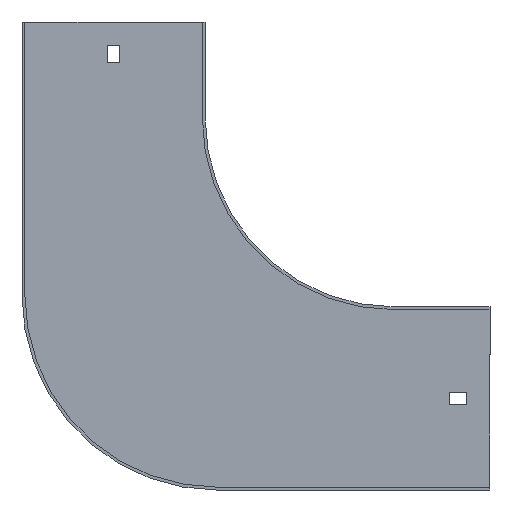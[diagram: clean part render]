
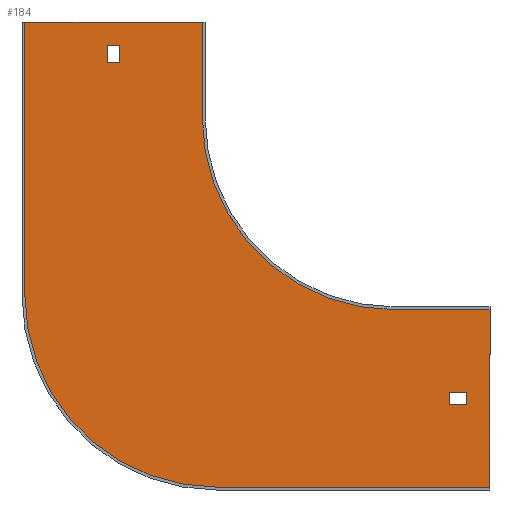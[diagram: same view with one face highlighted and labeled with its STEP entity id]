
A CAD part, front view. The second image highlights one B-rep face of the part: STEP entity #184.
In plain terms, the highlighted planar face has unit normal (0, -1, 0).
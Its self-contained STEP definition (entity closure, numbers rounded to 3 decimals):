
#2 = PLANE ( 'NONE',  #248 ) ;
#5 = ORIENTED_EDGE ( 'NONE', *, *, #211, .F. ) ;
#24 = CARTESIAN_POINT ( 'NONE',  ( 0., -1.5, -100. ) ) ;
#34 = CARTESIAN_POINT ( 'NONE',  ( -149.5, -1.5, 38. ) ) ;
#48 = EDGE_CURVE ( 'NONE', #489, #545, #601, .T. ) ;
#50 = VECTOR ( 'NONE', #131, 1000. ) ;
#54 = CARTESIAN_POINT ( 'NONE',  ( 0., -1.5, 29. ) ) ;
#55 = CARTESIAN_POINT ( 'NONE',  ( 0., -1.5, 0. ) ) ;
#62 = LINE ( 'NONE', #54, #554 ) ;
#63 = EDGE_CURVE ( 'NONE', #143, #469, #261, .T. ) ;
#66 = EDGE_CURVE ( 'NONE', #573, #680, #729, .T. ) ;
#72 = CARTESIAN_POINT ( 'NONE',  ( -100., -1.5, 0. ) ) ;
#73 = DIRECTION ( 'NONE',  ( 0., -1., 0. ) ) ;
#81 = LINE ( 'NONE', #801, #50 ) ;
#91 = VERTEX_POINT ( 'NONE', #391 ) ;
#112 = LINE ( 'NONE', #394, #843 ) ;
#113 = VERTEX_POINT ( 'NONE', #252 ) ;
#119 = DIRECTION ( 'NONE',  ( -1., 0., 0. ) ) ;
#126 = EDGE_CURVE ( 'NONE', #269, #489, #112, .T. ) ;
#131 = DIRECTION ( 'NONE',  ( -1., 0., 0. ) ) ;
#134 = DIRECTION ( 'NONE',  ( 0., 0., -1. ) ) ;
#143 = VERTEX_POINT ( 'NONE', #529 ) ;
#147 = DIRECTION ( 'NONE',  ( 1., 0., 0. ) ) ;
#153 = EDGE_CURVE ( 'NONE', #373, #775, #332, .T. ) ;
#161 = CIRCLE ( 'NONE', #264, 100. ) ;
#165 = EDGE_CURVE ( 'NONE', #606, #271, #161, .T. ) ;
#173 = ORIENTED_EDGE ( 'NONE', *, *, #165, .F. ) ;
#175 = VECTOR ( 'NONE', #670, 1000. ) ;
#184 = ADVANCED_FACE ( 'NONE', ( #419, #274, #608 ), #2, .T. ) ;
#187 = ORIENTED_EDGE ( 'NONE', *, *, #126, .F. ) ;
#202 = CARTESIAN_POINT ( 'NONE',  ( 0., -1.5, 0. ) ) ;
#211 = EDGE_CURVE ( 'NONE', #91, #573, #81, .T. ) ;
#212 = CARTESIAN_POINT ( 'NONE',  ( 0., -1.5, -100. ) ) ;
#236 = VECTOR ( 'NONE', #134, 1000. ) ;
#242 = ORIENTED_EDGE ( 'NONE', *, *, #498, .T. ) ;
#247 = CARTESIAN_POINT ( 'NONE',  ( -149.5, -1.5, 29. ) ) ;
#248 = AXIS2_PLACEMENT_3D ( 'NONE', #202, #73, #405 ) ;
#252 = CARTESIAN_POINT ( 'NONE',  ( 38., -1.5, -149.5 ) ) ;
#255 = CARTESIAN_POINT ( 'NONE',  ( 0., -1.5, 38. ) ) ;
#261 = LINE ( 'NONE', #717, #321 ) ;
#264 = AXIS2_PLACEMENT_3D ( 'NONE', #55, #605, #593 ) ;
#269 = VERTEX_POINT ( 'NONE', #629 ) ;
#271 = VERTEX_POINT ( 'NONE', #24 ) ;
#274 = FACE_OUTER_BOUND ( 'NONE', #665, .T. ) ;
#276 = CARTESIAN_POINT ( 'NONE',  ( 0., -1.5, -149.5 ) ) ;
#302 = LINE ( 'NONE', #565, #376 ) ;
#314 = CARTESIAN_POINT ( 'NONE',  ( 38., -1.5, 0. ) ) ;
#321 = VECTOR ( 'NONE', #524, 1000. ) ;
#322 = LINE ( 'NONE', #520, #735 ) ;
#332 = LINE ( 'NONE', #458, #552 ) ;
#360 = AXIS2_PLACEMENT_3D ( 'NONE', #380, #438, #772 ) ;
#361 = VECTOR ( 'NONE', #147, 1000. ) ;
#373 = VERTEX_POINT ( 'NONE', #496 ) ;
#374 = ORIENTED_EDGE ( 'NONE', *, *, #48, .F. ) ;
#376 = VECTOR ( 'NONE', #847, 1000. ) ;
#378 = LINE ( 'NONE', #314, #859 ) ;
#379 = EDGE_CURVE ( 'NONE', #113, #91, #378, .T. ) ;
#380 = CARTESIAN_POINT ( 'NONE',  ( -92.5, -1.5, -92.5 ) ) ;
#391 = CARTESIAN_POINT ( 'NONE',  ( 38., -1.5, -143. ) ) ;
#392 = ORIENTED_EDGE ( 'NONE', *, *, #153, .T. ) ;
#394 = CARTESIAN_POINT ( 'NONE',  ( 50., -1.5, -192.5 ) ) ;
#402 = ORIENTED_EDGE ( 'NONE', *, *, #66, .F. ) ;
#405 = DIRECTION ( 'NONE',  ( 0., 0., -1. ) ) ;
#413 = CARTESIAN_POINT ( 'NONE',  ( 50., -1.5, -98.5 ) ) ;
#419 = FACE_BOUND ( 'NONE', #711, .T. ) ;
#438 = DIRECTION ( 'NONE',  ( 0., 1., 0. ) ) ;
#449 = DIRECTION ( 'NONE',  ( 1., 0., 0. ) ) ;
#458 = CARTESIAN_POINT ( 'NONE',  ( -143., -1.5, 0. ) ) ;
#462 = LINE ( 'NONE', #725, #175 ) ;
#468 = EDGE_CURVE ( 'NONE', #469, #606, #322, .T. ) ;
#469 = VERTEX_POINT ( 'NONE', #588 ) ;
#480 = ORIENTED_EDGE ( 'NONE', *, *, #532, .F. ) ;
#482 = ORIENTED_EDGE ( 'NONE', *, *, #63, .F. ) ;
#488 = ORIENTED_EDGE ( 'NONE', *, *, #798, .T. ) ;
#489 = VERTEX_POINT ( 'NONE', #771 ) ;
#494 = ORIENTED_EDGE ( 'NONE', *, *, #770, .F. ) ;
#496 = CARTESIAN_POINT ( 'NONE',  ( -143., -1.5, 38. ) ) ;
#498 = EDGE_CURVE ( 'NONE', #775, #820, #62, .T. ) ;
#520 = CARTESIAN_POINT ( 'NONE',  ( -100., -1.5, 50. ) ) ;
#523 = DIRECTION ( 'NONE',  ( 0., 0., -1. ) ) ;
#524 = DIRECTION ( 'NONE',  ( 1., 0., 0. ) ) ;
#529 = CARTESIAN_POINT ( 'NONE',  ( -192.5, -1.5, 50. ) ) ;
#530 = EDGE_CURVE ( 'NONE', #820, #730, #462, .T. ) ;
#532 = EDGE_CURVE ( 'NONE', #271, #622, #607, .T. ) ;
#545 = VERTEX_POINT ( 'NONE', #790 ) ;
#552 = VECTOR ( 'NONE', #598, 1000. ) ;
#554 = VECTOR ( 'NONE', #848, 1000. ) ;
#565 = CARTESIAN_POINT ( 'NONE',  ( -192.5, -1.5, -92.5 ) ) ;
#573 = VERTEX_POINT ( 'NONE', #807 ) ;
#577 = ORIENTED_EDGE ( 'NONE', *, *, #611, .F. ) ;
#580 = DIRECTION ( 'NONE',  ( 0., 0., 1. ) ) ;
#582 = CARTESIAN_POINT ( 'NONE',  ( -143., -1.5, 29. ) ) ;
#587 = LINE ( 'NONE', #255, #693 ) ;
#588 = CARTESIAN_POINT ( 'NONE',  ( -100., -1.5, 50. ) ) ;
#593 = DIRECTION ( 'NONE',  ( 0., 0., -1. ) ) ;
#598 = DIRECTION ( 'NONE',  ( 0., 0., -1. ) ) ;
#601 = CIRCLE ( 'NONE', #360, 100. ) ;
#605 = DIRECTION ( 'NONE',  ( 0., -1., 0. ) ) ;
#606 = VERTEX_POINT ( 'NONE', #72 ) ;
#607 = LINE ( 'NONE', #212, #361 ) ;
#608 = FACE_BOUND ( 'NONE', #863, .T. ) ;
#611 = EDGE_CURVE ( 'NONE', #622, #269, #736, .T. ) ;
#622 = VERTEX_POINT ( 'NONE', #803 ) ;
#629 = CARTESIAN_POINT ( 'NONE',  ( 50., -1.5, -192.5 ) ) ;
#640 = CARTESIAN_POINT ( 'NONE',  ( 29., -1.5, -149.5 ) ) ;
#645 = DIRECTION ( 'NONE',  ( 1., 0., 0. ) ) ;
#665 = EDGE_LOOP ( 'NONE', ( #482, #494, #374, #187, #577, #480, #173, #674 ) ) ;
#667 = DIRECTION ( 'NONE',  ( 0., 0., -1. ) ) ;
#670 = DIRECTION ( 'NONE',  ( 0., 0., 1. ) ) ;
#674 = ORIENTED_EDGE ( 'NONE', *, *, #468, .F. ) ;
#680 = VERTEX_POINT ( 'NONE', #640 ) ;
#693 = VECTOR ( 'NONE', #645, 1000. ) ;
#711 = EDGE_LOOP ( 'NONE', ( #5, #835, #785, #402 ) ) ;
#717 = CARTESIAN_POINT ( 'NONE',  ( -194., -1.5, 50. ) ) ;
#725 = CARTESIAN_POINT ( 'NONE',  ( -149.5, -1.5, 0. ) ) ;
#729 = LINE ( 'NONE', #854, #858 ) ;
#730 = VERTEX_POINT ( 'NONE', #34 ) ;
#735 = VECTOR ( 'NONE', #523, 1000. ) ;
#736 = LINE ( 'NONE', #413, #236 ) ;
#770 = EDGE_CURVE ( 'NONE', #545, #143, #302, .T. ) ;
#771 = CARTESIAN_POINT ( 'NONE',  ( -92.5, -1.5, -192.5 ) ) ;
#772 = DIRECTION ( 'NONE',  ( 0., 0., -1. ) ) ;
#775 = VERTEX_POINT ( 'NONE', #582 ) ;
#785 = ORIENTED_EDGE ( 'NONE', *, *, #806, .F. ) ;
#790 = CARTESIAN_POINT ( 'NONE',  ( -192.5, -1.5, -92.5 ) ) ;
#796 = ORIENTED_EDGE ( 'NONE', *, *, #530, .T. ) ;
#798 = EDGE_CURVE ( 'NONE', #730, #373, #587, .T. ) ;
#799 = VECTOR ( 'NONE', #449, 1000. ) ;
#801 = CARTESIAN_POINT ( 'NONE',  ( 0., -1.5, -143. ) ) ;
#803 = CARTESIAN_POINT ( 'NONE',  ( 50., -1.5, -100. ) ) ;
#806 = EDGE_CURVE ( 'NONE', #680, #113, #852, .T. ) ;
#807 = CARTESIAN_POINT ( 'NONE',  ( 29., -1.5, -143. ) ) ;
#820 = VERTEX_POINT ( 'NONE', #247 ) ;
#835 = ORIENTED_EDGE ( 'NONE', *, *, #379, .F. ) ;
#843 = VECTOR ( 'NONE', #119, 1000. ) ;
#847 = DIRECTION ( 'NONE',  ( 0., 0., 1. ) ) ;
#848 = DIRECTION ( 'NONE',  ( -1., 0., 0. ) ) ;
#852 = LINE ( 'NONE', #276, #799 ) ;
#854 = CARTESIAN_POINT ( 'NONE',  ( 29., -1.5, 0. ) ) ;
#858 = VECTOR ( 'NONE', #667, 1000. ) ;
#859 = VECTOR ( 'NONE', #580, 1000. ) ;
#863 = EDGE_LOOP ( 'NONE', ( #488, #392, #242, #796 ) ) ;
